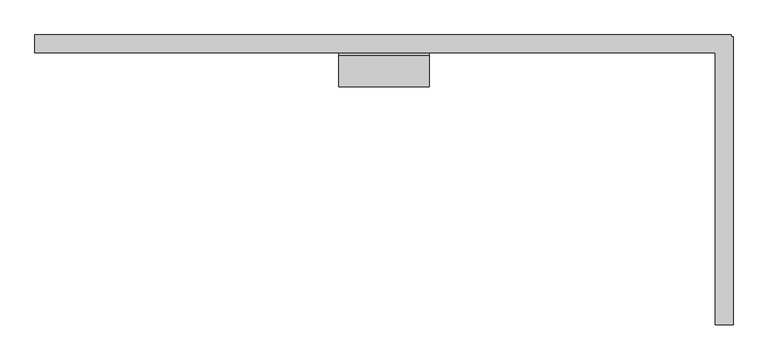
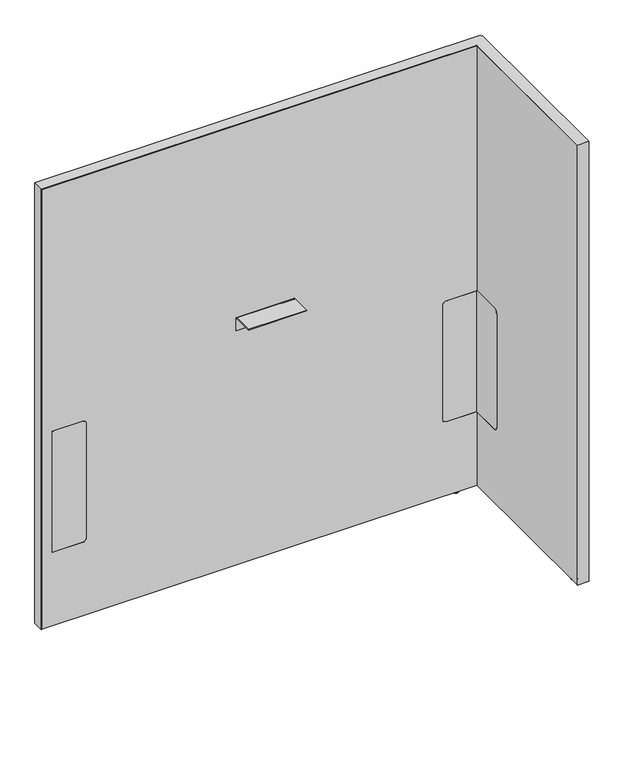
"""IFC4 building model written with IfcOpenShell, lengths in millimetres: furniture geometry, Steelcase - Answer Solution - Boundary Screen - L Return - Single Sided : 48H x 45W."""

from ifc_helpers import new_model, si_unit, point, frame, frame_2d, origin, place, context, project, spatial, polyline, circle_curve, ellipse_curve, trimmed, segment, composite_curve, outline, extrude, faceted_brep, source, transform, mapped, element, save
from ifc_brep_helpers import plane_surface, cylinder_surface, revolved_surface, advanced_brep


def furniture_1362e8b8(model_context):
    return source(origin(), model_context, "Body", "SolidModel", [
        extrude(outline(composite_curve([segment(polyline([(-109.3501471, 549.6162029), (-29.0550397, 549.6162029), (-29.0550397, 213.7762137), (-109.3501471, 213.7762137)]), True, "CONTINUOUS"), segment(trimmed(circle_curve(frame_2d((-109.3501471, 223.9362137)), 10.16), [point((-109.3501471, 213.7762137))], [point((-119.5101471, 223.9362137))], False, "CARTESIAN"), True, "CONTINUOUS"), segment(polyline([(-119.5101471, 223.9362137), (-119.5101471, 539.4562029)]), True, "CONTINUOUS"), segment(trimmed(circle_curve(frame_2d((-109.3501471, 539.4562029)), 10.16), [point((-119.5101471, 539.4562029))], [point((-109.3501471, 549.6162029))], False, "CARTESIAN"), True, "CONTINUOUS")], self_intersect=False)), frame((1372.8191891, 0.0, 0.0), z_axis=(1.0, 0.0, 0.0), x_axis=(0.0, 1.0, 0.0)), (0.0, 0.0, 1.0), 0.6401544),
        advanced_brep(
        [(1387.6672074, -448.0136072, 0.0), (1394.6216144, -448.0136072, 0.0), (1380.7128003, -448.0136072, 0.0), (1396.0762685, -448.0136072, 1.2700001), (1379.2581463, -448.0136072, 1.2700001), (1396.0762685, -448.0136072, 2.9673238), (1379.2581463, -448.0136072, 2.9673238), (1397.0427877, -448.0136072, 2.9673238), (1378.291627, -448.0136072, 2.9673238), (1397.0427877, -448.0136072, 9.9059849), (1378.291627, -448.0136072, 9.9059849), (1387.6672074, -448.0136072, 9.9059849)],
        [
            (0, 1),
            (1, 2, circle_curve(frame((1387.6672074, -448.0136072, 0.0), z_axis=(0.0, 0.0, -1.0), x_axis=(1.0, 0.0, 0.0)), 6.9544071)),
            (2, 0),
            (2, 1, circle_curve(frame((1387.6672074, -448.0136072, 0.0), z_axis=(0.0, 0.0, -1.0), x_axis=(1.0, 0.0, 0.0)), 6.9544071)),
            (1, 3, circle_curve(frame((1394.7945484, -448.0136072, 1.2700001), z_axis=(0.0, -1.0, 0.0), x_axis=(0.0, 0.0, 1.0)), 1.2817201)),
            (3, 4, circle_curve(frame((1387.6672074, -448.0136072, 1.2700001), z_axis=(0.0, 0.0, -1.0), x_axis=(1.0, 0.0, 0.0)), 8.4090611)),
            (4, 2, circle_curve(frame((1380.5398663, -448.0136072, 1.2700001), z_axis=(0.0, -1.0, 0.0), x_axis=(0.0, 0.0, 1.0)), 1.2817201)),
            (4, 3, circle_curve(frame((1387.6672074, -448.0136072, 1.2700001), z_axis=(0.0, 0.0, -1.0), x_axis=(1.0, 0.0, 0.0)), 8.4090611)),
            (3, 5),
            (5, 6, circle_curve(frame((1387.6672074, -448.0136072, 2.9673238), z_axis=(0.0, 0.0, -1.0), x_axis=(1.0, 0.0, 0.0)), 8.4090611)),
            (6, 4),
            (6, 5, circle_curve(frame((1387.6672074, -448.0136072, 2.9673238), z_axis=(0.0, 0.0, -1.0), x_axis=(1.0, 0.0, 0.0)), 8.4090611)),
            (5, 7),
            (7, 8, circle_curve(frame((1387.6672074, -448.0136072, 2.9673238), z_axis=(0.0, 0.0, -1.0), x_axis=(1.0, 0.0, 0.0)), 9.3755804)),
            (8, 6),
            (8, 7, circle_curve(frame((1387.6672074, -448.0136072, 2.9673238), z_axis=(0.0, 0.0, -1.0), x_axis=(1.0, 0.0, 0.0)), 9.3755804)),
            (7, 9),
            (9, 10, circle_curve(frame((1387.6672074, -448.0136072, 9.9059849), z_axis=(0.0, 0.0, -1.0), x_axis=(1.0, 0.0, 0.0)), 9.3755804)),
            (10, 8),
            (10, 9, circle_curve(frame((1387.6672074, -448.0136072, 9.9059849), z_axis=(0.0, 0.0, -1.0), x_axis=(1.0, 0.0, 0.0)), 9.3755804)),
            (9, 11),
            (11, 10),
        ],
        [
            plane_surface(frame((1387.6672074, -448.0136072, 0.0), z_axis=(0.0, 0.0, -1.0), x_axis=(1.0, 0.0, 0.0))),
            revolved_surface(trimmed(ellipse_curve(frame((1394.7945484, -448.0136072, 1.2700001), z_axis=(0.0, 1.0, 0.0), x_axis=(0.0, 0.0, 1.0)), 1.2817201, 1.2817201), [point((1396.0762685, -448.0136072, 1.2700001))], [point((1394.6216144, -448.0136072, 0.0))], True, "CARTESIAN"), (1387.6672074, -448.0136072, 9.9059849), (0.0, 0.0, -1.0)),
            cylinder_surface(frame((1387.6672074, -448.0136072, 9.9059849), z_axis=(0.0, 0.0, -1.0), x_axis=(1.0, 0.0, 0.0)), 8.4090611),
            plane_surface(frame((1387.6672074, -448.0136072, 2.9673238), z_axis=(0.0, 0.0, -1.0), x_axis=(1.0, 0.0, 0.0))),
            cylinder_surface(frame((1387.6672074, -448.0136072, 9.9059849), z_axis=(0.0, 0.0, -1.0), x_axis=(1.0, 0.0, 0.0)), 9.3755804),
            plane_surface(frame((1387.6672074, -448.0136072, 9.9059849), z_axis=(0.0, 0.0, 1.0), x_axis=(1.0, 0.0, 0.0))),
        ],
        [
            (0, [[1, 2, 3]]),
            (0, [[-3, 4, -1]]),
            (1, [[-2, 5, 6, 7]]),
            (1, [[-4, -7, 8, -5]]),
            (2, [[-6, 9, 10, 11]]),
            (2, [[-8, -11, 12, -9]]),
            (3, [[-10, 13, 14, 15]]),
            (3, [[-12, -15, 16, -13]]),
            (4, [[-14, 17, 18, 19]]),
            (4, [[-16, -19, 20, -17]]),
            (5, [[-18, 21, 22]]),
            (5, [[-20, -22, -21]]),
        ],
    ),
        faceted_brep([(1399.2531179, 0.0, 1230.122), (1399.2531179, 0.0, 9.9059849), (1398.2621491, 0.0, 9.9059849), (1398.2621491, 0.0, 1229.142118), (230.8097779, 0.0, 1229.142118), (230.8097779, 0.0, 9.9059849), (229.8191891, 0.0, 9.9059849), (229.8191891, 0.0, 1230.122), (229.8191891, -29.6898332, 1230.122), (229.8191891, -29.6898332, 9.9059849), (230.8097779, -29.6898332, 9.9059849), (230.8097779, -29.6898332, 1229.142118), (1372.8191891, -29.6898332, 1229.142118), (1372.8191891, -29.6898332, 1230.122), (1398.2621491, -29.6898332, 1229.142118), (1398.2621491, -29.6898332, 9.9059849), (1399.2531179, -29.6898332, 9.9059849), (1399.2531179, -29.6898332, 1229.142118), (1399.2531179, -3.2625916, 1230.122), (1399.2531179, -3.2625916, 9.9059849), (1399.2531179, -4.252647, 9.9059849), (1399.2531179, -4.252647, 1229.142118), (1402.5152256, -3.2625916, 9.9059849), (1402.5152256, -4.252647, 9.9059849), (1398.2621491, -4.252647, 9.9059849), (1372.8191891, -4.252647, 9.9059849), (1372.8191891, -3.2625916, 9.9059849), (1398.2621491, -3.2625916, 9.9059849), (1372.8191891, -486.8898332, 1230.122), (1402.5152256, -486.8898332, 1230.122), (1402.5152256, -3.2625916, 1230.122), (1398.2621491, -3.2625916, 1229.142118), (1398.2621491, -4.252647, 1229.142118), (1372.8191891, -3.2625916, 1229.142118), (1372.8191891, -4.252647, 1229.142118), (1402.5152256, -4.252647, 1229.142118), (1402.5152256, -485.899196, 1229.142118), (1372.8191891, -485.899196, 1229.142118), (1372.8191891, -485.899196, 9.9059849), (1372.8191891, -486.8898332, 9.9059849), (1402.5152256, -486.8898332, 9.9059849), (1402.5152256, -485.899196, 9.9059849)], [[[0, 1, 2, 3, 4, 5, 6, 7]], [[8, 9, 10, 11, 12, 13]], [[14, 15, 16, 17]], [[1, 0, 18, 19]], [[17, 16, 20, 21]], [[2, 1, 19, 22, 23, 20, 16, 15, 24, 25, 26, 27]], [[7, 6, 9, 8]], [[0, 7, 8, 13, 28, 29, 30, 18]], [[3, 2, 27, 31]], [[15, 14, 32, 24]], [[4, 3, 31, 33, 34, 32, 14, 17, 21, 35, 36, 37, 12, 11]], [[5, 4, 11, 10]], [[6, 5, 10, 9]], [[26, 25, 34, 33]], [[37, 38, 39, 28, 13, 12]], [[29, 40, 41, 36, 35, 23, 22, 30]], [[27, 26, 33, 31]], [[30, 22, 19, 18]], [[34, 25, 24, 32]], [[23, 35, 21, 20]], [[38, 37, 36, 41]], [[39, 38, 41, 40]], [[28, 39, 40, 29]]]),
        extrude(outline(composite_curve([segment(polyline([(-86.8398151, 696.4680019), (-86.8398151, 698.5), (-34.9450855, 698.5)]), True, "CONTINUOUS"), segment(trimmed(circle_curve(frame_2d((-34.9450855, 693.2447477)), 5.2552523), [point((-34.9450855, 698.5))], [point((-29.6898332, 693.2447477))], False, "CARTESIAN"), True, "CONTINUOUS"), segment(polyline([(-29.6898332, 693.2447477), (-29.6898332, 660.4), (-31.7218162, 660.4), (-31.7218162, 693.0058743)]), True, "CONTINUOUS"), segment(trimmed(circle_curve(frame_2d((-35.1839438, 693.0058743)), 3.4621276), [point((-31.7218162, 693.0058743))], [point((-35.1839438, 696.4680019))], True, "CARTESIAN"), True, "CONTINUOUS"), segment(polyline([(-35.1839438, 696.4680019), (-86.8398151, 696.4680019)]), True, "CONTINUOUS")], self_intersect=False)), frame((739.9685899, 0.0, 0.0), z_axis=(1.0, 0.0, 0.0), x_axis=(0.0, 1.0, 0.0)), (0.0, 0.0, 1.0), 152.4000969),
        advanced_brep(
        [(1325.3246853, -23.7588726, 9.9059849), (1325.3246853, -5.9309607, 9.9059849), (1325.3246853, -14.8449166, 9.9059849), (1325.3246853, -23.7588726, 2.9673238), (1325.3246853, -5.9309607, 2.9673238), (1325.3246853, -22.7915354, 2.9673238), (1325.3246853, -6.8982978, 2.9673238), (1325.3246853, -22.7915354, 1.6569081), (1325.3246853, -6.8982978, 1.6569081), (1325.3246853, -21.1346274, 0.0), (1325.3246853, -8.5552059, 0.0), (1325.3246853, -14.8449166, 0.0)],
        [
            (0, 1, circle_curve(frame((1325.3246853, -14.8449166, 9.9059849), z_axis=(0.0, 0.0, 1.0), x_axis=(0.0, 1.0, 0.0)), 8.913956)),
            (1, 2),
            (2, 0),
            (1, 0, circle_curve(frame((1325.3246853, -14.8449166, 9.9059849), z_axis=(0.0, 0.0, 1.0), x_axis=(0.0, 1.0, 0.0)), 8.913956)),
            (3, 4, circle_curve(frame((1325.3246853, -14.8449166, 2.9673238), z_axis=(0.0, 0.0, 1.0), x_axis=(0.0, 1.0, 0.0)), 8.913956)),
            (4, 1),
            (0, 3),
            (4, 3, circle_curve(frame((1325.3246853, -14.8449166, 2.9673238), z_axis=(0.0, 0.0, 1.0), x_axis=(0.0, 1.0, 0.0)), 8.913956)),
            (5, 6, circle_curve(frame((1325.3246853, -14.8449166, 2.9673238), z_axis=(0.0, 0.0, 1.0), x_axis=(0.0, 1.0, 0.0)), 7.9466188)),
            (6, 4),
            (3, 5),
            (6, 5, circle_curve(frame((1325.3246853, -14.8449166, 2.9673238), z_axis=(0.0, 0.0, 1.0), x_axis=(0.0, 1.0, 0.0)), 7.9466188)),
            (7, 8, circle_curve(frame((1325.3246853, -14.8449166, 1.6569081), z_axis=(0.0, 0.0, 1.0), x_axis=(0.0, 1.0, 0.0)), 7.9466188)),
            (8, 6),
            (5, 7),
            (8, 7, circle_curve(frame((1325.3246853, -14.8449166, 1.6569081), z_axis=(0.0, 0.0, 1.0), x_axis=(0.0, 1.0, 0.0)), 7.9466188)),
            (9, 10, circle_curve(frame((1325.3246853, -14.8449166, 0.0), z_axis=(0.0, 0.0, 1.0), x_axis=(0.0, 1.0, 0.0)), 6.2897107)),
            (10, 8, circle_curve(frame((1325.3246853, -8.5552059, 1.6569081), z_axis=(1.0, 0.0, 0.0), x_axis=(0.0, 1.0, 0.0)), 1.6569081)),
            (7, 9, circle_curve(frame((1325.3246853, -21.1346274, 1.6569081), z_axis=(1.0, 0.0, 0.0), x_axis=(0.0, -1.0, 0.0)), 1.6569081)),
            (10, 9, circle_curve(frame((1325.3246853, -14.8449166, 0.0), z_axis=(0.0, 0.0, 1.0), x_axis=(0.0, 1.0, 0.0)), 6.2897107)),
            (11, 10),
            (9, 11),
        ],
        [
            plane_surface(frame((1325.3246853, -14.8449166, 9.9059849), z_axis=(0.0, 0.0, 1.0), x_axis=(0.0, 1.0, 0.0))),
            cylinder_surface(frame((1325.3246853, -14.8449166, 9.9059849), z_axis=(0.0, 0.0, -1.0), x_axis=(0.0, 1.0, 0.0)), 8.913956),
            plane_surface(frame((1325.3246853, -14.8449166, 2.9673238), z_axis=(0.0, 0.0, -1.0), x_axis=(0.0, 1.0, 0.0))),
            cylinder_surface(frame((1325.3246853, -14.8449166, 9.9059849), z_axis=(0.0, 0.0, -1.0), x_axis=(0.0, 1.0, 0.0)), 7.9466188),
            revolved_surface(trimmed(ellipse_curve(frame((1325.3246853, -8.5552059, 1.6569081), z_axis=(-1.0, 0.0, 0.0), x_axis=(0.0, 1.0, 0.0)), 1.6569081, 1.6569081), [point((1325.3246853, -6.8982978, 1.6569081))], [point((1325.3246853, -8.5552059, 0.0))], True, "CARTESIAN"), (1325.3246853, -14.8449166, 9.9059849), (0.0, 0.0, -1.0)),
            plane_surface(frame((1325.3246853, -14.8449166, 0.0), z_axis=(0.0, 0.0, -1.0), x_axis=(0.0, 1.0, 0.0))),
        ],
        [
            (0, [[1, 2, 3]]),
            (0, [[4, -3, -2]]),
            (1, [[5, 6, -1, 7]]),
            (1, [[8, -7, -4, -6]]),
            (2, [[9, 10, -5, 11]]),
            (2, [[12, -11, -8, -10]]),
            (3, [[13, 14, -9, 15]]),
            (3, [[16, -15, -12, -14]]),
            (4, [[17, 18, -13, 19]]),
            (4, [[20, -19, -16, -18]]),
            (5, [[21, -17, 22]]),
            (5, [[-22, -20, -21]]),
        ],
    ),
        advanced_brep(
        [(230.8097779, 0.0, 1229.142118), (1398.2621491, 0.0, 1229.142118), (1398.2621491, 0.0, 9.9059849), (230.8097779, 0.0, 9.9059849), (347.9483813, -29.0550397, 539.4562029), (337.7883813, -29.0550397, 549.6162029), (258.1344836, -29.0550397, 549.6162029), (258.1344836, -29.0550397, 213.7762137), (337.7883813, -29.0550397, 213.7762137), (347.9483813, -29.0550397, 223.9362137), (1373.4593435, -29.0550397, 213.7762137), (1373.4593435, -29.0550397, 549.6162029), (1292.9109268, -29.0550397, 549.6162029), (1282.7509268, -29.0550397, 539.4562029), (1282.7509268, -29.0550397, 223.9362137), (1292.9109268, -29.0550397, 213.7762137), (230.8097779, -29.6898332, 1229.142118), (230.8097779, -29.6898332, 9.9059849), (1372.8191891, -29.6898332, 9.9059849), (1372.8191891, -29.6898332, 213.7762137), (1292.9109268, -29.6898332, 213.7762137), (1282.7509268, -29.6898332, 223.9362137), (1282.7509268, -29.6898332, 539.4562029), (1292.9109268, -29.6898332, 549.6162029), (1372.8191891, -29.6898332, 549.6162029), (1372.8191891, -29.6898332, 1229.142118), (337.7883813, -29.6898332, 549.6162029), (347.9483813, -29.6898332, 539.4562029), (347.9483813, -29.6898332, 223.9362137), (337.7883813, -29.6898332, 213.7762137), (258.1344836, -29.6898332, 213.7762137), (258.1344836, -29.6898332, 549.6162029), (1398.2621491, -4.252647, 9.9059849), (1402.5152256, -4.252647, 9.9059849), (1402.5152256, -485.899196, 9.9059849), (1372.8191891, -485.899196, 9.9059849), (1398.2621491, -4.252647, 1229.142118), (1372.8191891, -485.899196, 1229.142118), (1402.5152256, -485.899196, 1229.142118), (1402.5152256, -4.252647, 1229.142118), (1373.4593435, -109.3501471, 549.6162029), (1372.8191891, -109.3501471, 549.6162029), (1373.4593435, -109.3501471, 213.7762137), (1373.4593435, -119.5101471, 223.9362137), (1373.4593435, -119.5101471, 539.4562029), (1372.8191891, -109.3501471, 213.7762137), (1372.8191891, -119.5101471, 539.4562029), (1372.8191891, -119.5101471, 223.9362137)],
        [
            (0, 1),
            (1, 2),
            (2, 3),
            (3, 0),
            (4, 5, circle_curve(frame((337.7883813, -29.0550397, 539.4562029), z_axis=(0.0, -1.0, 0.0), x_axis=(0.0, 0.0, 1.0)), 10.16)),
            (5, 6),
            (6, 7),
            (7, 8),
            (8, 9, circle_curve(frame((337.7883813, -29.0550397, 223.9362137), z_axis=(0.0, -1.0, 0.0), x_axis=(0.0, 0.0, 1.0)), 10.16)),
            (9, 4),
            (10, 11),
            (11, 12),
            (12, 13, circle_curve(frame((1292.9109268, -29.0550397, 539.4562029), z_axis=(0.0, -1.0, 0.0), x_axis=(0.0, 0.0, 1.0)), 10.16)),
            (13, 14),
            (14, 15, circle_curve(frame((1292.9109268, -29.0550397, 223.9362137), z_axis=(0.0, -1.0, 0.0), x_axis=(0.0, 0.0, 1.0)), 10.16)),
            (15, 10),
            (16, 17),
            (17, 18),
            (18, 19),
            (19, 20),
            (20, 21, circle_curve(frame((1292.9109268, -29.6898332, 223.9362137), z_axis=(0.0, 1.0, 0.0), x_axis=(0.0, 0.0, 1.0)), 10.16)),
            (21, 22),
            (22, 23, circle_curve(frame((1292.9109268, -29.6898332, 539.4562029), z_axis=(0.0, 1.0, 0.0), x_axis=(0.0, 0.0, 1.0)), 10.16)),
            (23, 24),
            (24, 25),
            (25, 16),
            (26, 27, circle_curve(frame((337.7883813, -29.6898332, 539.4562029), z_axis=(0.0, 1.0, 0.0), x_axis=(0.0, 0.0, 1.0)), 10.16)),
            (27, 28),
            (28, 29, circle_curve(frame((337.7883813, -29.6898332, 223.9362137), z_axis=(0.0, 1.0, 0.0), x_axis=(0.0, 0.0, 1.0)), 10.16)),
            (29, 30),
            (30, 31),
            (31, 26),
            (16, 0),
            (3, 17),
            (2, 32),
            (32, 33),
            (33, 34),
            (34, 35),
            (35, 18),
            (1, 36),
            (36, 32),
            (25, 37),
            (37, 38),
            (38, 39),
            (39, 36),
            (26, 5),
            (4, 27),
            (9, 28),
            (8, 29),
            (7, 30),
            (6, 31),
            (11, 40),
            (40, 41),
            (41, 24),
            (23, 12),
            (42, 43, circle_curve(frame((1373.4593435, -109.3501471, 223.9362137), z_axis=(-1.0, 0.0, 0.0), x_axis=(0.0, 1.0, 0.0)), 10.16)),
            (43, 44),
            (44, 40, circle_curve(frame((1373.4593435, -109.3501471, 539.4562029), z_axis=(-1.0, 0.0, 0.0), x_axis=(0.0, 1.0, 0.0)), 10.16)),
            (10, 42),
            (15, 20),
            (19, 45),
            (45, 42),
            (14, 21),
            (13, 22),
            (35, 37),
            (41, 46, circle_curve(frame((1372.8191891, -109.3501471, 539.4562029), z_axis=(1.0, 0.0, 0.0), x_axis=(0.0, 1.0, 0.0)), 10.16)),
            (46, 47),
            (47, 45, circle_curve(frame((1372.8191891, -109.3501471, 223.9362137), z_axis=(1.0, 0.0, 0.0), x_axis=(0.0, 1.0, 0.0)), 10.16)),
            (38, 34),
            (33, 39),
            (44, 46),
            (43, 47),
        ],
        [
            plane_surface(frame((347.9483813, 0.0, 549.6162029), z_axis=(0.0, 1.0, 0.0), x_axis=(0.0, 0.0, -1.0))),
            plane_surface(frame((347.9483813, -29.0550397, 549.6162029), z_axis=(0.0, -1.0, 0.0), x_axis=(0.0, 0.0, 1.0))),
            plane_surface(frame((1398.2621491, -29.6898332, 1229.142118), z_axis=(0.0, -1.0, 0.0), x_axis=(-1.0, 0.0, 0.0))),
            plane_surface(frame((230.8097779, 0.0, 9.9059849), z_axis=(-1.0, 0.0, 0.0), x_axis=(0.0, -1.0, 0.0))),
            plane_surface(frame((1398.2621491, 0.0, 9.9059849), z_axis=(0.0, 0.0, -1.0), x_axis=(0.0, -1.0, 0.0))),
            plane_surface(frame((1398.2621491, 0.0, 1229.142118), z_axis=(1.0, 0.0, 0.0), x_axis=(0.0, -1.0, 0.0))),
            plane_surface(frame((230.8097779, 0.0, 1229.142118), z_axis=(0.0, 0.0, 1.0), x_axis=(0.0, -1.0, 0.0))),
            revolved_surface(polyline([(337.7883813, -29.6898332, 549.6162029), (337.7883813, -29.0550397, 549.6162029)]), (337.7883813, -29.6898332, 539.4562029), (0.0, -1.0, 0.0)),
            plane_surface(frame((347.9483813, 0.0, 223.9362137), z_axis=(-1.0, 0.0, 0.0), x_axis=(0.0, -1.0, 0.0))),
            revolved_surface(polyline([(337.7883813, -29.6898332, 234.0962137), (337.7883813, -29.0550397, 234.0962137)]), (337.7883813, -29.6898332, 223.9362137), (0.0, -1.0, 0.0)),
            plane_surface(frame((258.1344836, 0.0, 213.7762137), z_axis=(0.0, 0.0, 1.0), x_axis=(0.0, -1.0, 0.0))),
            plane_surface(frame((258.1344836, 0.0, 549.6162029), z_axis=(1.0, 0.0, 0.0), x_axis=(0.0, -1.0, 0.0))),
            plane_surface(frame((337.7883813, 0.0, 549.6162029), z_axis=(0.0, 0.0, -1.0), x_axis=(0.0, -1.0, 0.0))),
            plane_surface(frame((1373.4593435, 0.0, 549.6162029), z_axis=(0.0, 0.0, -1.0), x_axis=(0.0, -1.0, 0.0))),
            plane_surface(frame((1373.4593435, 0.0, 213.7762137), z_axis=(-1.0, 0.0, 0.0), x_axis=(0.0, -1.0, 0.0))),
            plane_surface(frame((1292.9109268, 0.0, 213.7762137), z_axis=(0.0, 0.0, 1.0), x_axis=(0.0, -1.0, 0.0))),
            revolved_surface(polyline([(1292.9109268, -29.6898332, 234.0962137), (1292.9109268, -29.0550397, 234.0962137)]), (1292.9109268, -29.6898332, 223.9362137), (0.0, -1.0, 0.0)),
            plane_surface(frame((1282.7509268, 0.0, 539.4562029), z_axis=(1.0, 0.0, 0.0), x_axis=(0.0, -1.0, 0.0))),
            revolved_surface(polyline([(1292.9109268, -29.6898332, 549.6162029), (1292.9109268, -29.0550397, 549.6162029)]), (1292.9109268, -29.6898332, 539.4562029), (0.0, -1.0, 0.0)),
            plane_surface(frame((1372.8191891, -485.899196, 1229.142118), z_axis=(-1.0, 0.0, 0.0), x_axis=(0.0, 0.0, 1.0))),
            plane_surface(frame((1402.5152256, -485.899196, 1229.142118), z_axis=(1.0, 0.0, 0.0), x_axis=(0.0, 0.0, -1.0))),
            plane_surface(frame((1402.5152256, -4.252647, 9.9059849), z_axis=(0.0, 1.0, 0.0), x_axis=(-1.0, 0.0, 0.0))),
            plane_surface(frame((1402.5152256, -485.899196, 1229.142118), z_axis=(0.0, -1.0, 0.0), x_axis=(-1.0, 0.0, 0.0))),
            revolved_surface(polyline([(1372.8191891, -99.1901471, 539.4562029), (1373.4593435, -99.1901471, 539.4562029)]), (-340.6902705, -109.3501471, 539.4562029), (-1.0, 0.0, 0.0)),
            plane_surface(frame((1402.5152256, -119.5101471, 223.9362137), z_axis=(0.0, 1.0, 0.0), x_axis=(-1.0, 0.0, 0.0))),
            revolved_surface(polyline([(1372.8191891, -99.1901471, 223.9362137), (1373.4593435, -99.1901471, 223.9362137)]), (-340.6902705, -109.3501471, 223.9362137), (-1.0, 0.0, 0.0)),
        ],
        [
            (0, [[1, 2, 3, 4]]),
            (1, [[5, 6, 7, 8, 9, 10]]),
            (1, [[11, 12, 13, 14, 15, 16]]),
            (2, [[17, 18, 19, 20, 21, 22, 23, 24, 25, 26], [27, 28, 29, 30, 31, 32]]),
            (3, [[-17, 33, -4, 34]]),
            (4, [[-3, 35, 36, 37, 38, 39, -18, -34]]),
            (5, [[-2, 40, 41, -35]]),
            (6, [[-1, -33, -26, 42, 43, 44, 45, -40]]),
            (7, [[-27, 46, -5, 47]]),
            (8, [[-28, -47, -10, 48]]),
            (9, [[-29, -48, -9, 49]]),
            (10, [[-30, -49, -8, 50]]),
            (11, [[-31, -50, -7, 51]]),
            (12, [[-32, -51, -6, -46]]),
            (13, [[52, 53, 54, -24, 55, -12]]),
            (14, [[56, 57, 58, -52, -11, 59]]),
            (15, [[-59, -16, 60, -20, 61, 62]]),
            (16, [[-21, -60, -15, 63]]),
            (17, [[-22, -63, -14, 64]]),
            (18, [[-23, -64, -13, -55]]),
            (19, [[65, -42, -25, -54, 66, 67, 68, -61, -19, -39]]),
            (20, [[69, -37, 70, -44]]),
            (21, [[-70, -36, -41, -45]]),
            (22, [[-65, -38, -69, -43]]),
            (23, [[-66, -53, -58, 71]]),
            (24, [[-67, -71, -57, 72]]),
            (25, [[-68, -72, -56, -62]]),
        ],
    ),
        extrude(outline(composite_curve([segment(polyline([(549.6162029, 337.7883813), (549.6162029, 258.1344836), (213.7762137, 258.1344836), (213.7762137, 337.7883813)]), True, "CONTINUOUS"), segment(trimmed(circle_curve(frame_2d((223.9362137, 337.7883813)), 10.16), [point((213.7762137, 337.7883813))], [point((223.9362137, 347.9483813))], False, "CARTESIAN"), True, "CONTINUOUS"), segment(polyline([(223.9362137, 347.9483813), (539.4562029, 347.9483813)]), True, "CONTINUOUS"), segment(trimmed(circle_curve(frame_2d((539.4562029, 337.7883813)), 10.16), [point((539.4562029, 347.9483813))], [point((549.6162029, 337.7883813))], False, "CARTESIAN"), True, "CONTINUOUS")], self_intersect=False)), frame((0.0, -29.6898332, 0.0), z_axis=(0.0, 1.0, 0.0), x_axis=(0.0, 0.0, 1.0)), (0.0, 0.0, 1.0), 0.6347935),
        extrude(outline(composite_curve([segment(trimmed(circle_curve(frame_2d((539.4562029, 1292.9109268)), 10.16), [point((549.6162029, 1292.9109268))], [point((539.4562029, 1282.7509268))], False, "CARTESIAN"), True, "CONTINUOUS"), segment(polyline([(539.4562029, 1282.7509268), (223.9362137, 1282.7509268)]), True, "CONTINUOUS"), segment(trimmed(circle_curve(frame_2d((223.9362137, 1292.9109268)), 10.16), [point((223.9362137, 1282.7509268))], [point((213.7762137, 1292.9109268))], False, "CARTESIAN"), True, "CONTINUOUS"), segment(polyline([(213.7762137, 1292.9109268), (213.7762137, 1372.8191891), (549.6162029, 1372.8191891), (549.6162029, 1292.9109268)]), True, "CONTINUOUS")], self_intersect=False)), frame((0.0, -29.6898332, 0.0), z_axis=(0.0, 1.0, 0.0), x_axis=(0.0, 0.0, 1.0)), (0.0, 0.0, 1.0), 0.6347935),
    ])


if __name__ == "__main__":
    model = new_model("IFC4")
    model_context = context("Model", 3, world=origin())
    ifc_project = project(units=[si_unit("LENGTHUNIT", "METRE", prefix="MILLI")], contexts=[model_context])
    site = spatial("IfcSite", under=ifc_project)
    building = spatial("IfcBuilding", under=site)
    placement = place(None, origin())
    furniture_shape = furniture_1362e8b8(model_context)
    element("IfcFurniture", 1, ObjectType="Steelcase - Answer Solution - Boundary Screen - L Return - Single Sided : 48H x 45W", at=placement, inside=building, context=model_context, shape_type="MappedRepresentation", body=[
        mapped(furniture_shape, transform((0.0, 0.0, 0.0), x_axis=(1.0, 0.0, 0.0), y_axis=(0.0, 1.0, 0.0), z_axis=(0.0, 0.0, 1.0))),
    ])
    save(model, "model.ifc")
